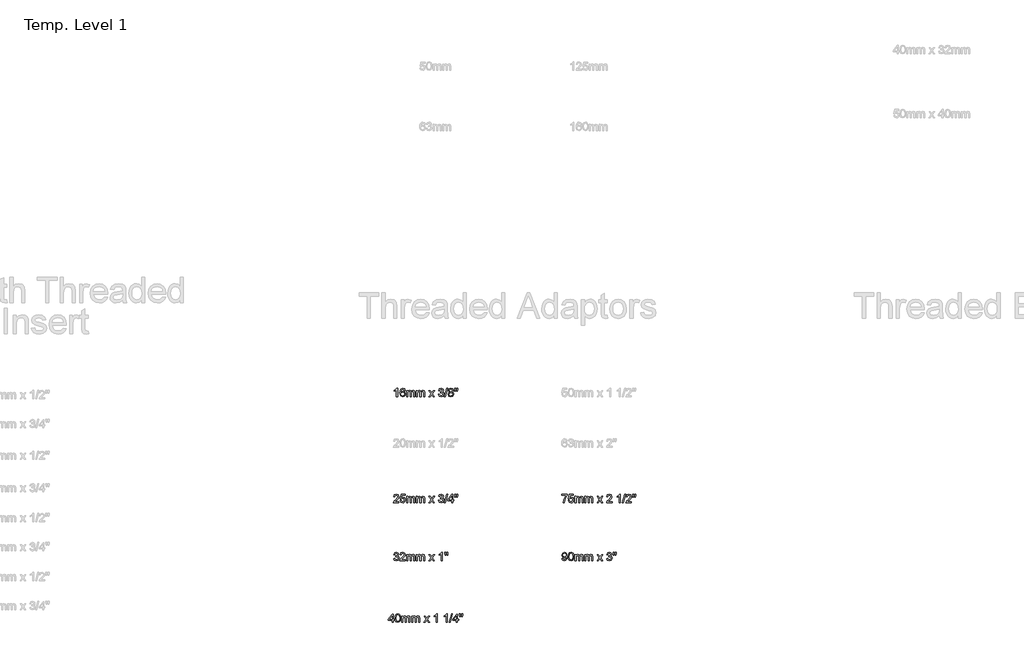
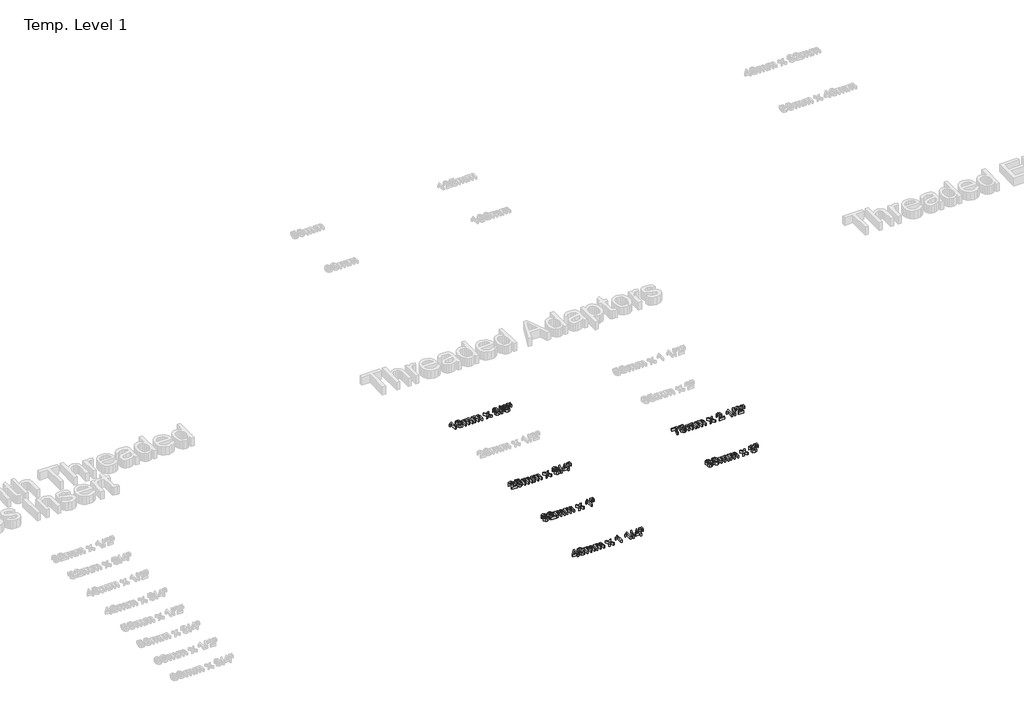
# One storey, part 20 of 62: 6 proxies.
"""IFC4 building model written with IfcOpenShell, lengths in millimetres."""

from ifc_helpers import new_model, si_unit, origin, origin_with_axes, place, context, project, spatial, polyline, outline, extrude, element, save

model = new_model("IFC4")

# Units and contexts
model_context = context("Model", 3, world=origin())
ifc_project = project(units=[si_unit("LENGTHUNIT", "METRE", prefix="MILLI")], contexts=[model_context])

# Site, building, storey
site = spatial("IfcSite", under=ifc_project)
building = spatial("IfcBuilding", under=site)
storey = spatial("IfcBuildingStorey", under=building, Name="Temp. Level 1", Elevation=0.0)

# Proxies
placement = place(None, origin())
element("IfcBuildingElementProxy", 1, Name="50mm Arial", ObjectType="50mm Arial", at=placement, inside=storey, context=model_context, shape_type="SweptSolid", body=[
    extrude(outline(polyline([(20774.252074, -10530.198517), (20768.0982278, -10530.198517), (20768.0982278, -10491.8331324), (20762.2689009, -10495.9857766), (20755.7905355, -10499.0927478), (20755.7905355, -10493.2754401), (20764.8109682, -10487.5182286), (20770.2857278, -10480.9677478), (20774.252074, -10480.9677478), (20774.252074, -10530.198517)])), origin_with_axes(), (0.0, 0.0, 1.0), 15.0),
    extrude(outline(polyline([(20820.4059201, -10494.0446709), (20814.252074, -10494.8139016), (20811.9203432, -10489.6816901), (20805.7544778, -10487.1215939), (20800.2015932, -10488.6119786), (20796.0008721, -10494.2069305), (20794.252074, -10505.1744786), (20799.6787567, -10500.2646228), (20806.4035163, -10498.6600555), (20816.8602471, -10503.0470747), (20821.1751509, -10514.3812093), (20819.1439009, -10522.8727959), (20813.5549586, -10528.8824112), (20805.4900547, -10530.9677478), (20792.9479874, -10525.4389016), (20789.3106677, -10518.1191901), (20788.0982278, -10507.2177478), (20789.4443817, -10494.9611372), (20793.4828432, -10486.5807286), (20798.9966653, -10482.370993), (20806.1390932, -10480.9677478), (20815.8626509, -10484.4413055), (20820.4059201, -10494.0446709)]), holes=[polyline([(20794.252074, -10514.2850555), (20795.6763528, -10519.6155843), (20799.4624105, -10523.4857766), (20805.0092855, -10524.8139016), (20812.2628913, -10522.0614978), (20815.0213047, -10514.5855362), (20812.298949, -10507.4280843), (20804.7568817, -10504.8139016), (20797.3109682, -10507.4280843), (20794.252074, -10514.2850555)])]), origin_with_axes(), (0.0, 0.0, 1.0), 15.0),
    extrude(outline(polyline([(20828.0982278, -10530.198517), (20828.0982278, -10494.0446709), (20834.252074, -10494.0446709), (20834.252074, -10499.9941901), (20838.4828432, -10495.120392), (20844.5044778, -10493.2754401), (20850.6703432, -10495.1564497), (20854.0597663, -10500.4268824), (20858.861449, -10495.0633007), (20864.9251509, -10493.2754401), (20872.9720259, -10496.2501997), (20875.7905355, -10505.4148632), (20875.7905355, -10530.198517), (20869.6366894, -10530.198517), (20869.6366894, -10508.0590939), (20869.0657759, -10502.9208728), (20866.9984682, -10500.3908247), (20863.4828432, -10499.4292862), (20857.4311605, -10501.8932286), (20855.0213047, -10509.7898632), (20855.0213047, -10530.198517), (20848.8674586, -10530.198517), (20848.8674586, -10507.3739978), (20847.4431797, -10501.4124593), (20842.7737086, -10499.4292862), (20838.2184201, -10500.7514016), (20835.189574, -10504.6215939), (20834.252074, -10511.9653439), (20834.252074, -10530.198517), (20828.0982278, -10530.198517)])), origin_with_axes(), (0.0, 0.0, 1.0), 15.0),
    extrude(outline(polyline([(20885.0213047, -10530.198517), (20885.0213047, -10494.0446709), (20891.1751509, -10494.0446709), (20891.1751509, -10499.9941901), (20895.4059201, -10495.120392), (20901.4275547, -10493.2754401), (20907.5934201, -10495.1564497), (20910.9828432, -10500.4268824), (20915.7845259, -10495.0633007), (20921.8482278, -10493.2754401), (20929.8951028, -10496.2501997), (20932.7136124, -10505.4148632), (20932.7136124, -10530.198517), (20926.5597663, -10530.198517), (20926.5597663, -10508.0590939), (20925.9888528, -10502.9208728), (20923.9215451, -10500.3908247), (20920.4059201, -10499.4292862), (20914.3542374, -10501.8932286), (20911.9443817, -10509.7898632), (20911.9443817, -10530.198517), (20905.7905355, -10530.198517), (20905.7905355, -10507.3739978), (20904.3662567, -10501.4124593), (20899.6967855, -10499.4292862), (20895.1414971, -10500.7514016), (20892.1126509, -10504.6215939), (20891.1751509, -10511.9653439), (20891.1751509, -10530.198517), (20885.0213047, -10530.198517)])), origin_with_axes(), (0.0, 0.0, 1.0), 15.0),
    extrude(outline(polyline([(20957.3289971, -10530.198517), (20970.4780355, -10512.0254401), (20958.0982278, -10494.0446709), (20965.502074, -10494.0446709), (20971.4756317, -10502.698517), (20974.2640932, -10506.7850555), (20976.6799586, -10503.4437093), (20983.4828432, -10494.0446709), (20990.8866894, -10494.0446709), (20977.8818817, -10512.0254401), (20990.4059201, -10530.198517), (20983.002074, -10530.198517), (20975.4660163, -10519.2730362), (20974.0838047, -10517.2778439), (20964.7328432, -10530.198517), (20957.3289971, -10530.198517)])), origin_with_axes(), (0.0, 0.0, 1.0), 15.0),
    extrude(outline(polyline([(21013.4828432, -10517.1215939), (21019.6366894, -10516.3523632), (21023.0321221, -10522.8307286), (21029.3842855, -10524.8139016), (21036.8602471, -10522.0855362), (21039.6366894, -10515.3307286), (21036.8842855, -10508.9665459), (21029.8890932, -10506.448517), (21025.5741894, -10507.1215939), (21026.2592855, -10500.9677478), (21034.2280355, -10499.2730362), (21037.3289971, -10493.8403439), (21035.0814009, -10489.026642), (21029.2881317, -10487.1215939), (21023.4227471, -10489.0446709), (21020.4059201, -10494.8139016), (21014.252074, -10494.0446709), (21019.2881317, -10484.3932286), (21029.0717855, -10480.9677478), (21036.4936605, -10482.6564497), (21041.6859682, -10487.2718343), (21043.4828432, -10493.479767), (21041.7761124, -10499.1528439), (21036.7280355, -10503.2273632), (21043.4347663, -10507.4340939), (21045.7905355, -10515.4389016), (21041.0789971, -10526.448517), (21029.1679394, -10530.9677478), (21018.3746701, -10527.1095747), (21013.4828432, -10517.1215939)])), origin_with_axes(), (0.0, 0.0, 1.0), 15.0),
    extrude(outline(polyline([(21048.0982278, -10530.198517), (21061.9443817, -10480.9677478), (21067.4972663, -10480.9677478), (21053.6511124, -10530.198517), (21048.0982278, -10530.198517)])), origin_with_axes(), (0.0, 0.0, 1.0), 15.0),
    extrude(outline(polyline([(21079.3722663, -10503.0831324), (21073.7652951, -10499.261017), (21071.9443817, -10493.3114978), (21075.9107278, -10484.5254401), (21086.4756317, -10480.9677478), (21097.1366894, -10484.6095747), (21101.1751509, -10493.479767), (21099.3782759, -10499.2790459), (21093.9275547, -10503.0831324), (21100.4720259, -10507.9088536), (21102.7136124, -10515.8715939), (21098.2664971, -10526.6167862), (21086.5597663, -10530.9677478), (21074.8530355, -10526.5987574), (21070.4059201, -10515.7033247), (21072.7376509, -10507.5542862), (21079.3722663, -10503.0831324)]), holes=[polyline([(21076.5597663, -10515.4869786), (21077.5874105, -10520.120392), (21081.2232278, -10523.5879401), (21086.6078432, -10524.8139016), (21093.939574, -10522.2357766), (21096.5597663, -10515.6792862), (21093.8554394, -10508.9965939), (21086.4035163, -10506.3523632), (21079.1619297, -10508.9605362), (21076.5597663, -10515.4869786)]), polyline([(21078.0982278, -10493.4917862), (21080.2797182, -10498.323517), (21086.6318817, -10500.198517), (21092.8578432, -10498.3355362), (21095.0213047, -10493.7682286), (21092.7857278, -10489.0386612), (21086.5597663, -10487.1215939), (21080.3157759, -10488.9965939), (21078.0982278, -10493.4917862)])]), origin_with_axes(), (0.0, 0.0, 1.0), 15.0),
    extrude(outline(polyline([(21121.8722663, -10498.6600555), (21120.4059201, -10489.1528439), (21120.4059201, -10480.9677478), (21126.5597663, -10480.9677478), (21126.5597663, -10489.1528439), (21125.1174586, -10498.6600555), (21121.8722663, -10498.6600555)])), origin_with_axes(), (0.0, 0.0, 1.0), 15.0),
    extrude(outline(polyline([(21109.6006317, -10498.6600555), (21108.0982278, -10489.1528439), (21108.0982278, -10480.9677478), (21114.252074, -10480.9677478), (21114.252074, -10489.1528439), (21112.9059201, -10498.6600555), (21109.6006317, -10498.6600555)])), origin_with_axes(), (0.0, 0.0, 1.0), 15.0),
])
element("IfcBuildingElementProxy", 2, Name="50mm Arial", ObjectType="50mm Arial", at=placement, inside=storey, context=model_context, shape_type="SweptSolid", body=[
    extrude(outline(polyline([(20782.7136124, -11144.0446709), (20782.7136124, -11150.198517), (20750.4059201, -11150.198517), (20751.0669778, -11145.9557286), (20754.8049586, -11139.4232766), (20762.5092855, -11132.2898632), (20773.1342855, -11122.0374593), (20775.7905355, -11115.0663055), (20773.2845259, -11109.4232766), (20766.7400547, -11107.1215939), (20759.9191413, -11109.3691901), (20757.3289971, -11115.5831324), (20751.1751509, -11114.8139016), (20755.892699, -11104.5134209), (20766.8722663, -11100.9677478), (20777.8878913, -11104.9100555), (20781.9443817, -11114.6937093), (20780.8506317, -11120.5290459), (20777.2148144, -11126.5626997), (20768.3987086, -11134.9941901), (20761.3193817, -11140.9136612), (20758.5429394, -11144.0446709), (20782.7136124, -11144.0446709)])), origin_with_axes(), (0.0, 0.0, 1.0), 15.0),
    extrude(outline(polyline([(20788.8674586, -11137.1215939), (20795.0213047, -11136.3523632), (20798.1222663, -11142.6925074), (20804.5525547, -11144.8139016), (20812.2689009, -11141.8631805), (20815.0213047, -11134.0326516), (20812.4431797, -11126.7249593), (20804.6487086, -11124.0446709), (20799.2460644, -11125.1143824), (20795.7905355, -11127.8908247), (20789.6366894, -11127.1215939), (20795.0213047, -11101.7369786), (20818.8674586, -11101.7369786), (20818.8674586, -11107.8908247), (20799.9972663, -11107.8908247), (20797.3650547, -11121.448517), (20806.3674586, -11117.8908247), (20816.8902951, -11122.3018824), (20821.1751509, -11133.6480362), (20817.3169778, -11145.0663055), (20811.7761124, -11149.4923872), (20804.5285163, -11150.9677478), (20793.6691413, -11147.1756805), (20788.8674586, -11137.1215939)])), origin_with_axes(), (0.0, 0.0, 1.0), 15.0),
    extrude(outline(polyline([(20828.0982278, -11150.198517), (20828.0982278, -11114.0446709), (20834.252074, -11114.0446709), (20834.252074, -11119.9941901), (20838.4828432, -11115.120392), (20844.5044778, -11113.2754401), (20850.6703432, -11115.1564497), (20854.0597663, -11120.4268824), (20858.861449, -11115.0633007), (20864.9251509, -11113.2754401), (20872.9720259, -11116.2501997), (20875.7905355, -11125.4148632), (20875.7905355, -11150.198517), (20869.6366894, -11150.198517), (20869.6366894, -11128.0590939), (20869.0657759, -11122.9208728), (20866.9984682, -11120.3908247), (20863.4828432, -11119.4292862), (20857.4311605, -11121.8932286), (20855.0213047, -11129.7898632), (20855.0213047, -11150.198517), (20848.8674586, -11150.198517), (20848.8674586, -11127.3739978), (20847.4431797, -11121.4124593), (20842.7737086, -11119.4292862), (20838.2184201, -11120.7514016), (20835.189574, -11124.6215939), (20834.252074, -11131.9653439), (20834.252074, -11150.198517), (20828.0982278, -11150.198517)])), origin_with_axes(), (0.0, 0.0, 1.0), 15.0),
    extrude(outline(polyline([(20885.0213047, -11150.198517), (20885.0213047, -11114.0446709), (20891.1751509, -11114.0446709), (20891.1751509, -11119.9941901), (20895.4059201, -11115.120392), (20901.4275547, -11113.2754401), (20907.5934201, -11115.1564497), (20910.9828432, -11120.4268824), (20915.7845259, -11115.0633007), (20921.8482278, -11113.2754401), (20929.8951028, -11116.2501997), (20932.7136124, -11125.4148632), (20932.7136124, -11150.198517), (20926.5597663, -11150.198517), (20926.5597663, -11128.0590939), (20925.9888528, -11122.9208728), (20923.9215451, -11120.3908247), (20920.4059201, -11119.4292862), (20914.3542374, -11121.8932286), (20911.9443817, -11129.7898632), (20911.9443817, -11150.198517), (20905.7905355, -11150.198517), (20905.7905355, -11127.3739978), (20904.3662567, -11121.4124593), (20899.6967855, -11119.4292862), (20895.1414971, -11120.7514016), (20892.1126509, -11124.6215939), (20891.1751509, -11131.9653439), (20891.1751509, -11150.198517), (20885.0213047, -11150.198517)])), origin_with_axes(), (0.0, 0.0, 1.0), 15.0),
    extrude(outline(polyline([(20957.3289971, -11150.198517), (20970.4780355, -11132.0254401), (20958.0982278, -11114.0446709), (20965.502074, -11114.0446709), (20971.4756317, -11122.698517), (20974.2640932, -11126.7850555), (20976.6799586, -11123.4437093), (20983.4828432, -11114.0446709), (20990.8866894, -11114.0446709), (20977.8818817, -11132.0254401), (20990.4059201, -11150.198517), (20983.002074, -11150.198517), (20975.4660163, -11139.2730362), (20974.0838047, -11137.2778439), (20964.7328432, -11150.198517), (20957.3289971, -11150.198517)])), origin_with_axes(), (0.0, 0.0, 1.0), 15.0),
    extrude(outline(polyline([(21013.4828432, -11137.1215939), (21019.6366894, -11136.3523632), (21023.0321221, -11142.8307286), (21029.3842855, -11144.8139016), (21036.8602471, -11142.0855362), (21039.6366894, -11135.3307286), (21036.8842855, -11128.9665459), (21029.8890932, -11126.448517), (21025.5741894, -11127.1215939), (21026.2592855, -11120.9677478), (21034.2280355, -11119.2730362), (21037.3289971, -11113.8403439), (21035.0814009, -11109.026642), (21029.2881317, -11107.1215939), (21023.4227471, -11109.0446709), (21020.4059201, -11114.8139016), (21014.252074, -11114.0446709), (21019.2881317, -11104.3932286), (21029.0717855, -11100.9677478), (21036.4936605, -11102.6564497), (21041.6859682, -11107.2718343), (21043.4828432, -11113.479767), (21041.7761124, -11119.1528439), (21036.7280355, -11123.2273632), (21043.4347663, -11127.4340939), (21045.7905355, -11135.4389016), (21041.0789971, -11146.448517), (21029.1679394, -11150.9677478), (21018.3746701, -11147.1095747), (21013.4828432, -11137.1215939)])), origin_with_axes(), (0.0, 0.0, 1.0), 15.0),
    extrude(outline(polyline([(21048.0982278, -11150.198517), (21061.9443817, -11100.9677478), (21067.4972663, -11100.9677478), (21053.6511124, -11150.198517), (21048.0982278, -11150.198517)])), origin_with_axes(), (0.0, 0.0, 1.0), 15.0),
    extrude(outline(polyline([(21090.4059201, -11150.198517), (21090.4059201, -11138.6600555), (21068.0982278, -11138.6600555), (21068.0982278, -11132.5062093), (21091.9443817, -11101.7369786), (21096.5597663, -11101.7369786), (21096.5597663, -11132.5062093), (21102.7136124, -11132.5062093), (21102.7136124, -11138.6600555), (21096.5597663, -11138.6600555), (21096.5597663, -11150.198517), (21090.4059201, -11150.198517)]), holes=[polyline([(21090.4059201, -11132.5062093), (21090.4059201, -11113.4917862), (21075.6703432, -11132.5062093), (21090.4059201, -11132.5062093)])]), origin_with_axes(), (0.0, 0.0, 1.0), 15.0),
    extrude(outline(polyline([(21121.8722663, -11118.6600555), (21120.4059201, -11109.1528439), (21120.4059201, -11100.9677478), (21126.5597663, -11100.9677478), (21126.5597663, -11109.1528439), (21125.1174586, -11118.6600555), (21121.8722663, -11118.6600555)])), origin_with_axes(), (0.0, 0.0, 1.0), 15.0),
    extrude(outline(polyline([(21109.6006317, -11118.6600555), (21108.0982278, -11109.1528439), (21108.0982278, -11100.9677478), (21114.252074, -11100.9677478), (21114.252074, -11109.1528439), (21112.9059201, -11118.6600555), (21109.6006317, -11118.6600555)])), origin_with_axes(), (0.0, 0.0, 1.0), 15.0),
])
element("IfcBuildingElementProxy", 3, Name="50mm Arial", ObjectType="50mm Arial", at=placement, inside=storey, context=model_context, shape_type="SweptSolid", body=[
    extrude(outline(polyline([(20751.1751509, -11477.1215939), (20757.3289971, -11476.3523632), (20760.7244297, -11482.8307286), (20767.0765932, -11484.8139016), (20774.5525547, -11482.0855362), (20777.3289971, -11475.3307286), (20774.5765932, -11468.9665459), (20767.5814009, -11466.448517), (20763.2664971, -11467.1215939), (20763.9515932, -11460.9677478), (20771.9203432, -11459.2730362), (20775.0213047, -11453.8403439), (20772.7737086, -11449.026642), (20766.9804394, -11447.1215939), (20761.1150547, -11449.0446709), (20758.0982278, -11454.8139016), (20751.9443817, -11454.0446709), (20756.9804394, -11444.3932286), (20766.7640932, -11440.9677478), (20774.1859682, -11442.6564497), (20779.3782759, -11447.2718343), (20781.1751509, -11453.479767), (20779.4684201, -11459.1528439), (20774.4203432, -11463.2273632), (20781.127074, -11467.4340939), (20783.4828432, -11475.4389016), (20778.7713047, -11486.448517), (20766.8602471, -11490.9677478), (20756.0669778, -11487.1095747), (20751.1751509, -11477.1215939)])), origin_with_axes(), (0.0, 0.0, 1.0), 15.0),
    extrude(outline(polyline([(20820.4059201, -11484.0446709), (20820.4059201, -11490.198517), (20788.0982278, -11490.198517), (20788.7592855, -11485.9557286), (20792.4972663, -11479.4232766), (20800.2015932, -11472.2898632), (20810.8265932, -11462.0374593), (20813.4828432, -11455.0663055), (20810.9768336, -11449.4232766), (20804.4323624, -11447.1215939), (20797.611449, -11449.3691901), (20795.0213047, -11455.5831324), (20788.8674586, -11454.8139016), (20793.5850067, -11444.5134209), (20804.564574, -11440.9677478), (20815.580199, -11444.9100555), (20819.6366894, -11454.6937093), (20818.5429394, -11460.5290459), (20814.9071221, -11466.5626997), (20806.0910163, -11474.9941901), (20799.0116894, -11480.9136612), (20796.2352471, -11484.0446709), (20820.4059201, -11484.0446709)])), origin_with_axes(), (0.0, 0.0, 1.0), 15.0),
    extrude(outline(polyline([(20828.0982278, -11490.198517), (20828.0982278, -11454.0446709), (20834.252074, -11454.0446709), (20834.252074, -11459.9941901), (20838.4828432, -11455.120392), (20844.5044778, -11453.2754401), (20850.6703432, -11455.1564497), (20854.0597663, -11460.4268824), (20858.861449, -11455.0633007), (20864.9251509, -11453.2754401), (20872.9720259, -11456.2501997), (20875.7905355, -11465.4148632), (20875.7905355, -11490.198517), (20869.6366894, -11490.198517), (20869.6366894, -11468.0590939), (20869.0657759, -11462.9208728), (20866.9984682, -11460.3908247), (20863.4828432, -11459.4292862), (20857.4311605, -11461.8932286), (20855.0213047, -11469.7898632), (20855.0213047, -11490.198517), (20848.8674586, -11490.198517), (20848.8674586, -11467.3739978), (20847.4431797, -11461.4124593), (20842.7737086, -11459.4292862), (20838.2184201, -11460.7514016), (20835.189574, -11464.6215939), (20834.252074, -11471.9653439), (20834.252074, -11490.198517), (20828.0982278, -11490.198517)])), origin_with_axes(), (0.0, 0.0, 1.0), 15.0),
    extrude(outline(polyline([(20885.0213047, -11490.198517), (20885.0213047, -11454.0446709), (20891.1751509, -11454.0446709), (20891.1751509, -11459.9941901), (20895.4059201, -11455.120392), (20901.4275547, -11453.2754401), (20907.5934201, -11455.1564497), (20910.9828432, -11460.4268824), (20915.7845259, -11455.0633007), (20921.8482278, -11453.2754401), (20929.8951028, -11456.2501997), (20932.7136124, -11465.4148632), (20932.7136124, -11490.198517), (20926.5597663, -11490.198517), (20926.5597663, -11468.0590939), (20925.9888528, -11462.9208728), (20923.9215451, -11460.3908247), (20920.4059201, -11459.4292862), (20914.3542374, -11461.8932286), (20911.9443817, -11469.7898632), (20911.9443817, -11490.198517), (20905.7905355, -11490.198517), (20905.7905355, -11467.3739978), (20904.3662567, -11461.4124593), (20899.6967855, -11459.4292862), (20895.1414971, -11460.7514016), (20892.1126509, -11464.6215939), (20891.1751509, -11471.9653439), (20891.1751509, -11490.198517), (20885.0213047, -11490.198517)])), origin_with_axes(), (0.0, 0.0, 1.0), 15.0),
    extrude(outline(polyline([(20957.3289971, -11490.198517), (20970.4780355, -11472.0254401), (20958.0982278, -11454.0446709), (20965.502074, -11454.0446709), (20971.4756317, -11462.698517), (20974.2640932, -11466.7850555), (20976.6799586, -11463.4437093), (20983.4828432, -11454.0446709), (20990.8866894, -11454.0446709), (20977.8818817, -11472.0254401), (20990.4059201, -11490.198517), (20983.002074, -11490.198517), (20975.4660163, -11479.2730362), (20974.0838047, -11477.2778439), (20964.7328432, -11490.198517), (20957.3289971, -11490.198517)])), origin_with_axes(), (0.0, 0.0, 1.0), 15.0),
    extrude(outline(polyline([(21036.5597663, -11490.198517), (21030.4059201, -11490.198517), (21030.4059201, -11451.8331324), (21024.5765932, -11455.9857766), (21018.0982278, -11459.0927478), (21018.0982278, -11453.2754401), (21027.1186605, -11447.5182286), (21032.5934201, -11440.9677478), (21036.5597663, -11440.9677478), (21036.5597663, -11490.198517)])), origin_with_axes(), (0.0, 0.0, 1.0), 15.0),
    extrude(outline(polyline([(21052.6775547, -11458.6600555), (21051.1751509, -11449.1528439), (21051.1751509, -11440.9677478), (21057.3289971, -11440.9677478), (21057.3289971, -11449.1528439), (21055.9828432, -11458.6600555), (21052.6775547, -11458.6600555)])), origin_with_axes(), (0.0, 0.0, 1.0), 15.0),
    extrude(outline(polyline([(21064.9491894, -11458.6600555), (21063.4828432, -11449.1528439), (21063.4828432, -11440.9677478), (21069.6366894, -11440.9677478), (21069.6366894, -11449.1528439), (21068.1943817, -11458.6600555), (21064.9491894, -11458.6600555)])), origin_with_axes(), (0.0, 0.0, 1.0), 15.0),
])
element("IfcBuildingElementProxy", 4, Name="50mm Arial", ObjectType="50mm Arial", at=placement, inside=storey, context=model_context, shape_type="SweptSolid", body=[
    extrude(outline(polyline([(20742.7136124, -11850.198517), (20742.7136124, -11838.6600555), (20720.4059201, -11838.6600555), (20720.4059201, -11832.5062093), (20744.252074, -11801.7369786), (20748.8674586, -11801.7369786), (20748.8674586, -11832.5062093), (20755.0213047, -11832.5062093), (20755.0213047, -11838.6600555), (20748.8674586, -11838.6600555), (20748.8674586, -11850.198517), (20742.7136124, -11850.198517)]), holes=[polyline([(20742.7136124, -11832.5062093), (20742.7136124, -11813.4917862), (20727.9780355, -11832.5062093), (20742.7136124, -11832.5062093)])]), origin_with_axes(), (0.0, 0.0, 1.0), 15.0),
    extrude(outline(polyline([(20760.4059201, -11825.979767), (20762.2148144, -11811.8151036), (20767.5874105, -11803.6480362), (20776.5597663, -11800.9677478), (20783.7472663, -11802.5542862), (20788.7112086, -11807.1276036), (20791.595824, -11814.4112574), (20792.7136124, -11825.979767), (20790.9227471, -11840.0843343), (20785.5681797, -11848.2694305), (20776.5597663, -11850.9677478), (20765.3097663, -11846.2802478), (20761.6318817, -11837.9539257), (20760.4059201, -11825.979767)]), holes=[polyline([(20766.5597663, -11825.9677478), (20769.4443817, -11841.2501997), (20776.5597663, -11844.8139016), (20783.6751509, -11841.2381805), (20786.5597663, -11825.9677478), (20783.7713047, -11810.8595747), (20776.4876509, -11807.1215939), (20769.5405355, -11810.4148632), (20766.5597663, -11825.9677478)])]), origin_with_axes(), (0.0, 0.0, 1.0), 15.0),
    extrude(outline(polyline([(20799.6366894, -11850.198517), (20799.6366894, -11814.0446709), (20805.7905355, -11814.0446709), (20805.7905355, -11819.9941901), (20810.0213047, -11815.120392), (20816.0429394, -11813.2754401), (20822.2088047, -11815.1564497), (20825.5982278, -11820.4268824), (20830.3999105, -11815.0633007), (20836.4636124, -11813.2754401), (20844.5104874, -11816.2501997), (20847.3289971, -11825.4148632), (20847.3289971, -11850.198517), (20841.1751509, -11850.198517), (20841.1751509, -11828.0590939), (20840.6042374, -11822.9208728), (20838.5369297, -11820.3908247), (20835.0213047, -11819.4292862), (20828.9696221, -11821.8932286), (20826.5597663, -11829.7898632), (20826.5597663, -11850.198517), (20820.4059201, -11850.198517), (20820.4059201, -11827.3739978), (20818.9816413, -11821.4124593), (20814.3121701, -11819.4292862), (20809.7568817, -11820.7514016), (20806.7280355, -11824.6215939), (20805.7905355, -11831.9653439), (20805.7905355, -11850.198517), (20799.6366894, -11850.198517)])), origin_with_axes(), (0.0, 0.0, 1.0), 15.0),
    extrude(outline(polyline([(20856.5597663, -11850.198517), (20856.5597663, -11814.0446709), (20862.7136124, -11814.0446709), (20862.7136124, -11819.9941901), (20866.9443817, -11815.120392), (20872.9660163, -11813.2754401), (20879.1318817, -11815.1564497), (20882.5213047, -11820.4268824), (20887.3229874, -11815.0633007), (20893.3866894, -11813.2754401), (20901.4335644, -11816.2501997), (20904.252074, -11825.4148632), (20904.252074, -11850.198517), (20898.0982278, -11850.198517), (20898.0982278, -11828.0590939), (20897.5273144, -11822.9208728), (20895.4600067, -11820.3908247), (20891.9443817, -11819.4292862), (20885.892699, -11821.8932286), (20883.4828432, -11829.7898632), (20883.4828432, -11850.198517), (20877.3289971, -11850.198517), (20877.3289971, -11827.3739978), (20875.9047182, -11821.4124593), (20871.2352471, -11819.4292862), (20866.6799586, -11820.7514016), (20863.6511124, -11824.6215939), (20862.7136124, -11831.9653439), (20862.7136124, -11850.198517), (20856.5597663, -11850.198517)])), origin_with_axes(), (0.0, 0.0, 1.0), 15.0),
    extrude(outline(polyline([(20928.8674586, -11850.198517), (20942.0164971, -11832.0254401), (20929.6366894, -11814.0446709), (20937.0405355, -11814.0446709), (20943.0140932, -11822.698517), (20945.8025547, -11826.7850555), (20948.2184201, -11823.4437093), (20955.0213047, -11814.0446709), (20962.4251509, -11814.0446709), (20949.4203432, -11832.0254401), (20961.9443817, -11850.198517), (20954.5405355, -11850.198517), (20947.0044778, -11839.2730362), (20945.6222663, -11837.2778439), (20936.2713047, -11850.198517), (20928.8674586, -11850.198517)])), origin_with_axes(), (0.0, 0.0, 1.0), 15.0),
    extrude(outline(polyline([(21008.0982278, -11850.198517), (21001.9443817, -11850.198517), (21001.9443817, -11811.8331324), (20996.1150547, -11815.9857766), (20989.6366894, -11819.0927478), (20989.6366894, -11813.2754401), (20998.6571221, -11807.5182286), (21004.1318817, -11800.9677478), (21008.0982278, -11800.9677478), (21008.0982278, -11850.198517)])), origin_with_axes(), (0.0, 0.0, 1.0), 15.0),
    extrude(outline(polyline([(21065.0213047, -11850.198517), (21058.8674586, -11850.198517), (21058.8674586, -11811.8331324), (21053.0381317, -11815.9857766), (21046.5597663, -11819.0927478), (21046.5597663, -11813.2754401), (21055.580199, -11807.5182286), (21061.0549586, -11800.9677478), (21065.0213047, -11800.9677478), (21065.0213047, -11850.198517)])), origin_with_axes(), (0.0, 0.0, 1.0), 15.0),
    extrude(outline(polyline([(21076.5597663, -11850.198517), (21090.4059201, -11800.9677478), (21095.9588047, -11800.9677478), (21082.1126509, -11850.198517), (21076.5597663, -11850.198517)])), origin_with_axes(), (0.0, 0.0, 1.0), 15.0),
    extrude(outline(polyline([(21118.8674586, -11850.198517), (21118.8674586, -11838.6600555), (21096.5597663, -11838.6600555), (21096.5597663, -11832.5062093), (21120.4059201, -11801.7369786), (21125.0213047, -11801.7369786), (21125.0213047, -11832.5062093), (21131.1751509, -11832.5062093), (21131.1751509, -11838.6600555), (21125.0213047, -11838.6600555), (21125.0213047, -11850.198517), (21118.8674586, -11850.198517)]), holes=[polyline([(21118.8674586, -11832.5062093), (21118.8674586, -11813.4917862), (21104.1318817, -11832.5062093), (21118.8674586, -11832.5062093)])]), origin_with_axes(), (0.0, 0.0, 1.0), 15.0),
    extrude(outline(polyline([(21150.3338047, -11818.6600555), (21148.8674586, -11809.1528439), (21148.8674586, -11800.9677478), (21155.0213047, -11800.9677478), (21155.0213047, -11809.1528439), (21153.5789971, -11818.6600555), (21150.3338047, -11818.6600555)])), origin_with_axes(), (0.0, 0.0, 1.0), 15.0),
    extrude(outline(polyline([(21138.0621701, -11818.6600555), (21136.5597663, -11809.1528439), (21136.5597663, -11800.9677478), (21142.7136124, -11800.9677478), (21142.7136124, -11809.1528439), (21141.3674586, -11818.6600555), (21138.0621701, -11818.6600555)])), origin_with_axes(), (0.0, 0.0, 1.0), 15.0),
])
element("IfcBuildingElementProxy", 5, Name="50mm Arial", ObjectType="50mm Arial", at=placement, inside=storey, context=model_context, shape_type="SweptSolid", body=[
    extrude(outline(polyline([(21735.8008487, -11107.8908247), (21735.8008487, -11101.7369786), (21768.108541, -11101.7369786), (21768.108541, -11106.7129401), (21758.9438775, -11119.9521228), (21751.9306564, -11136.8211132), (21749.6470025, -11150.198517), (21743.4931564, -11150.198517), (21745.9390698, -11136.3163055), (21752.6518102, -11120.6251997), (21761.9546948, -11107.8908247), (21735.8008487, -11107.8908247)])), origin_with_axes(), (0.0, 0.0, 1.0), 15.0),
    extrude(outline(polyline([(21773.4931564, -11137.1215939), (21779.6470025, -11136.3523632), (21782.7479641, -11142.6925074), (21789.1782525, -11144.8139016), (21796.8945987, -11141.8631805), (21799.6470025, -11134.0326516), (21797.0688775, -11126.7249593), (21789.2744064, -11124.0446709), (21783.8717621, -11125.1143824), (21780.4162333, -11127.8908247), (21774.2623871, -11127.1215939), (21779.6470025, -11101.7369786), (21803.4931564, -11101.7369786), (21803.4931564, -11107.8908247), (21784.6229641, -11107.8908247), (21781.9907525, -11121.448517), (21790.9931564, -11117.8908247), (21801.5159929, -11122.3018824), (21805.8008487, -11133.6480362), (21801.9426756, -11145.0663055), (21796.4018102, -11149.4923872), (21789.1542141, -11150.9677478), (21778.2948391, -11147.1756805), (21773.4931564, -11137.1215939)])), origin_with_axes(), (0.0, 0.0, 1.0), 15.0),
    extrude(outline(polyline([(21812.7239256, -11150.198517), (21812.7239256, -11114.0446709), (21818.8777718, -11114.0446709), (21818.8777718, -11119.9941901), (21823.108541, -11115.120392), (21829.1301756, -11113.2754401), (21835.296041, -11115.1564497), (21838.6854641, -11120.4268824), (21843.4871468, -11115.0633007), (21849.5508487, -11113.2754401), (21857.5977237, -11116.2501997), (21860.4162333, -11125.4148632), (21860.4162333, -11150.198517), (21854.2623871, -11150.198517), (21854.2623871, -11128.0590939), (21853.6914737, -11122.9208728), (21851.624166, -11120.3908247), (21848.108541, -11119.4292862), (21842.0568583, -11121.8932286), (21839.6470025, -11129.7898632), (21839.6470025, -11150.198517), (21833.4931564, -11150.198517), (21833.4931564, -11127.3739978), (21832.0688775, -11121.4124593), (21827.3994064, -11119.4292862), (21822.8441179, -11120.7514016), (21819.8152718, -11124.6215939), (21818.8777718, -11131.9653439), (21818.8777718, -11150.198517), (21812.7239256, -11150.198517)])), origin_with_axes(), (0.0, 0.0, 1.0), 15.0),
    extrude(outline(polyline([(21869.6470025, -11150.198517), (21869.6470025, -11114.0446709), (21875.8008487, -11114.0446709), (21875.8008487, -11119.9941901), (21880.0316179, -11115.120392), (21886.0532525, -11113.2754401), (21892.2191179, -11115.1564497), (21895.608541, -11120.4268824), (21900.4102237, -11115.0633007), (21906.4739256, -11113.2754401), (21914.5208006, -11116.2501997), (21917.3393102, -11125.4148632), (21917.3393102, -11150.198517), (21911.1854641, -11150.198517), (21911.1854641, -11128.0590939), (21910.6145506, -11122.9208728), (21908.5472429, -11120.3908247), (21905.0316179, -11119.4292862), (21898.9799352, -11121.8932286), (21896.5700795, -11129.7898632), (21896.5700795, -11150.198517), (21890.4162333, -11150.198517), (21890.4162333, -11127.3739978), (21888.9919545, -11121.4124593), (21884.3224833, -11119.4292862), (21879.7671948, -11120.7514016), (21876.7383487, -11124.6215939), (21875.8008487, -11131.9653439), (21875.8008487, -11150.198517), (21869.6470025, -11150.198517)])), origin_with_axes(), (0.0, 0.0, 1.0), 15.0),
    extrude(outline(polyline([(21941.9546948, -11150.198517), (21955.1037333, -11132.0254401), (21942.7239256, -11114.0446709), (21950.1277718, -11114.0446709), (21956.1013295, -11122.698517), (21958.889791, -11126.7850555), (21961.3056564, -11123.4437093), (21968.108541, -11114.0446709), (21975.5123871, -11114.0446709), (21962.5075795, -11132.0254401), (21975.0316179, -11150.198517), (21967.6277718, -11150.198517), (21960.0917141, -11139.2730362), (21958.7095025, -11137.2778439), (21949.358541, -11150.198517), (21941.9546948, -11150.198517)])), origin_with_axes(), (0.0, 0.0, 1.0), 15.0),
    extrude(outline(polyline([(22029.6470025, -11144.0446709), (22029.6470025, -11150.198517), (21997.3393102, -11150.198517), (21998.0003679, -11145.9557286), (22001.7383487, -11139.4232766), (22009.4426756, -11132.2898632), (22020.0676756, -11122.0374593), (22022.7239256, -11115.0663055), (22020.217916, -11109.4232766), (22013.6734448, -11107.1215939), (22006.8525314, -11109.3691901), (22004.2623871, -11115.5831324), (21998.108541, -11114.8139016), (22002.8260891, -11104.5134209), (22013.8056564, -11100.9677478), (22024.8212814, -11104.9100555), (22028.8777718, -11114.6937093), (22027.7840218, -11120.5290459), (22024.1482045, -11126.5626997), (22015.3320987, -11134.9941901), (22008.2527718, -11140.9136612), (22005.4763295, -11144.0446709), (22029.6470025, -11144.0446709)])), origin_with_axes(), (0.0, 0.0, 1.0), 15.0),
    extrude(outline(polyline([(22078.108541, -11150.198517), (22071.9546948, -11150.198517), (22071.9546948, -11111.8331324), (22066.1253679, -11115.9857766), (22059.6470025, -11119.0927478), (22059.6470025, -11113.2754401), (22068.6674352, -11107.5182286), (22074.1421948, -11100.9677478), (22078.108541, -11100.9677478), (22078.108541, -11150.198517)])), origin_with_axes(), (0.0, 0.0, 1.0), 15.0),
    extrude(outline(polyline([(22089.6470025, -11150.198517), (22103.4931564, -11100.9677478), (22109.046041, -11100.9677478), (22095.1998871, -11150.198517), (22089.6470025, -11150.198517)])), origin_with_axes(), (0.0, 0.0, 1.0), 15.0),
    extrude(outline(polyline([(22143.4931564, -11144.0446709), (22143.4931564, -11150.198517), (22111.1854641, -11150.198517), (22111.8465218, -11145.9557286), (22115.5845025, -11139.4232766), (22123.2888295, -11132.2898632), (22133.9138295, -11122.0374593), (22136.5700795, -11115.0663055), (22134.0640698, -11109.4232766), (22127.5195987, -11107.1215939), (22120.6986852, -11109.3691901), (22118.108541, -11115.5831324), (22111.9546948, -11114.8139016), (22116.6722429, -11104.5134209), (22127.6518102, -11100.9677478), (22138.6674352, -11104.9100555), (22142.7239256, -11114.6937093), (22141.6301756, -11120.5290459), (22137.9943583, -11126.5626997), (22129.1782525, -11134.9941901), (22122.0989256, -11140.9136612), (22119.3224833, -11144.0446709), (22143.4931564, -11144.0446709)])), origin_with_axes(), (0.0, 0.0, 1.0), 15.0),
    extrude(outline(polyline([(22163.421041, -11118.6600555), (22161.9546948, -11109.1528439), (22161.9546948, -11100.9677478), (22168.108541, -11100.9677478), (22168.108541, -11109.1528439), (22166.6662333, -11118.6600555), (22163.421041, -11118.6600555)])), origin_with_axes(), (0.0, 0.0, 1.0), 15.0),
    extrude(outline(polyline([(22151.1494064, -11118.6600555), (22149.6470025, -11109.1528439), (22149.6470025, -11100.9677478), (22155.8008487, -11100.9677478), (22155.8008487, -11109.1528439), (22154.4546948, -11118.6600555), (22151.1494064, -11118.6600555)])), origin_with_axes(), (0.0, 0.0, 1.0), 15.0),
])
element("IfcBuildingElementProxy", 6, Name="50mm Arial", ObjectType="50mm Arial", at=placement, inside=storey, context=model_context, shape_type="SweptSolid", body=[
    extrude(outline(polyline([(21736.5700795, -11477.8908247), (21742.7239256, -11477.1215939), (21745.4883487, -11482.9929882), (21750.7287333, -11484.8139016), (21755.7107045, -11483.6420266), (21759.0881083, -11480.511017), (21761.1013295, -11475.1624593), (21761.9907525, -11468.0230362), (21757.0328198, -11471.4845747), (21750.2840218, -11473.2754401), (21740.0015698, -11468.9004401), (21735.8008487, -11457.3739978), (21740.2058968, -11445.4749593), (21751.2455602, -11440.9677478), (21760.0135891, -11443.5398632), (21766.0472429, -11450.8715939), (21768.108541, -11464.6456324), (21766.0532525, -11479.5915459), (21759.9414737, -11488.0590939), (21750.4402718, -11490.9677478), (21740.9811371, -11487.5362574), (21736.5700795, -11477.8908247)]), holes=[polyline([(21761.9546948, -11457.229767), (21759.2984448, -11449.8499593), (21752.2431564, -11447.1215939), (21744.8393102, -11450.0602959), (21741.9546948, -11457.6744786), (21744.6830602, -11464.495392), (21752.0748871, -11467.1215939), (21759.1722429, -11464.495392), (21761.9546948, -11457.229767)])]), origin_with_axes(), (0.0, 0.0, 1.0), 15.0),
    extrude(outline(polyline([(21773.4931564, -11465.979767), (21775.3020506, -11451.8151036), (21780.6746468, -11443.6480362), (21789.6470025, -11440.9677478), (21796.8345025, -11442.5542862), (21801.7984448, -11447.1276036), (21804.6830602, -11454.4112574), (21805.8008487, -11465.979767), (21804.0099833, -11480.0843343), (21798.655416, -11488.2694305), (21789.6470025, -11490.9677478), (21778.3970025, -11486.2802478), (21774.7191179, -11477.9539257), (21773.4931564, -11465.979767)]), holes=[polyline([(21779.6470025, -11465.9677478), (21782.5316179, -11481.2501997), (21789.6470025, -11484.8139016), (21796.7623871, -11481.2381805), (21799.6470025, -11465.9677478), (21796.858541, -11450.8595747), (21789.5748871, -11447.1215939), (21782.6277718, -11450.4148632), (21779.6470025, -11465.9677478)])]), origin_with_axes(), (0.0, 0.0, 1.0), 15.0),
    extrude(outline(polyline([(21812.7239256, -11490.198517), (21812.7239256, -11454.0446709), (21818.8777718, -11454.0446709), (21818.8777718, -11459.9941901), (21823.108541, -11455.120392), (21829.1301756, -11453.2754401), (21835.296041, -11455.1564497), (21838.6854641, -11460.4268824), (21843.4871468, -11455.0633007), (21849.5508487, -11453.2754401), (21857.5977237, -11456.2501997), (21860.4162333, -11465.4148632), (21860.4162333, -11490.198517), (21854.2623871, -11490.198517), (21854.2623871, -11468.0590939), (21853.6914737, -11462.9208728), (21851.624166, -11460.3908247), (21848.108541, -11459.4292862), (21842.0568583, -11461.8932286), (21839.6470025, -11469.7898632), (21839.6470025, -11490.198517), (21833.4931564, -11490.198517), (21833.4931564, -11467.3739978), (21832.0688775, -11461.4124593), (21827.3994064, -11459.4292862), (21822.8441179, -11460.7514016), (21819.8152718, -11464.6215939), (21818.8777718, -11471.9653439), (21818.8777718, -11490.198517), (21812.7239256, -11490.198517)])), origin_with_axes(), (0.0, 0.0, 1.0), 15.0),
    extrude(outline(polyline([(21869.6470025, -11490.198517), (21869.6470025, -11454.0446709), (21875.8008487, -11454.0446709), (21875.8008487, -11459.9941901), (21880.0316179, -11455.120392), (21886.0532525, -11453.2754401), (21892.2191179, -11455.1564497), (21895.608541, -11460.4268824), (21900.4102237, -11455.0633007), (21906.4739256, -11453.2754401), (21914.5208006, -11456.2501997), (21917.3393102, -11465.4148632), (21917.3393102, -11490.198517), (21911.1854641, -11490.198517), (21911.1854641, -11468.0590939), (21910.6145506, -11462.9208728), (21908.5472429, -11460.3908247), (21905.0316179, -11459.4292862), (21898.9799352, -11461.8932286), (21896.5700795, -11469.7898632), (21896.5700795, -11490.198517), (21890.4162333, -11490.198517), (21890.4162333, -11467.3739978), (21888.9919545, -11461.4124593), (21884.3224833, -11459.4292862), (21879.7671948, -11460.7514016), (21876.7383487, -11464.6215939), (21875.8008487, -11471.9653439), (21875.8008487, -11490.198517), (21869.6470025, -11490.198517)])), origin_with_axes(), (0.0, 0.0, 1.0), 15.0),
    extrude(outline(polyline([(21941.9546948, -11490.198517), (21955.1037333, -11472.0254401), (21942.7239256, -11454.0446709), (21950.1277718, -11454.0446709), (21956.1013295, -11462.698517), (21958.889791, -11466.7850555), (21961.3056564, -11463.4437093), (21968.108541, -11454.0446709), (21975.5123871, -11454.0446709), (21962.5075795, -11472.0254401), (21975.0316179, -11490.198517), (21967.6277718, -11490.198517), (21960.0917141, -11479.2730362), (21958.7095025, -11477.2778439), (21949.358541, -11490.198517), (21941.9546948, -11490.198517)])), origin_with_axes(), (0.0, 0.0, 1.0), 15.0),
    extrude(outline(polyline([(21998.108541, -11477.1215939), (22004.2623871, -11476.3523632), (22007.6578198, -11482.8307286), (22014.0099833, -11484.8139016), (22021.4859448, -11482.0855362), (22024.2623871, -11475.3307286), (22021.5099833, -11468.9665459), (22014.514791, -11466.448517), (22010.1998871, -11467.1215939), (22010.8849833, -11460.9677478), (22018.8537333, -11459.2730362), (22021.9546948, -11453.8403439), (22019.7070987, -11449.026642), (22013.9138295, -11447.1215939), (22008.0484448, -11449.0446709), (22005.0316179, -11454.8139016), (21998.8777718, -11454.0446709), (22003.9138295, -11444.3932286), (22013.6974833, -11440.9677478), (22021.1193583, -11442.6564497), (22026.311666, -11447.2718343), (22028.108541, -11453.479767), (22026.4018102, -11459.1528439), (22021.3537333, -11463.2273632), (22028.0604641, -11467.4340939), (22030.4162333, -11475.4389016), (22025.7046948, -11486.448517), (22013.7936371, -11490.9677478), (22003.0003679, -11487.1095747), (21998.108541, -11477.1215939)])), origin_with_axes(), (0.0, 0.0, 1.0), 15.0),
    extrude(outline(polyline([(22037.3032525, -11458.6600555), (22035.8008487, -11449.1528439), (22035.8008487, -11440.9677478), (22041.9546948, -11440.9677478), (22041.9546948, -11449.1528439), (22040.608541, -11458.6600555), (22037.3032525, -11458.6600555)])), origin_with_axes(), (0.0, 0.0, 1.0), 15.0),
    extrude(outline(polyline([(22049.5748871, -11458.6600555), (22048.108541, -11449.1528439), (22048.108541, -11440.9677478), (22054.2623871, -11440.9677478), (22054.2623871, -11449.1528439), (22052.8200795, -11458.6600555), (22049.5748871, -11458.6600555)])), origin_with_axes(), (0.0, 0.0, 1.0), 15.0),
])

save(model, "model.ifc")
